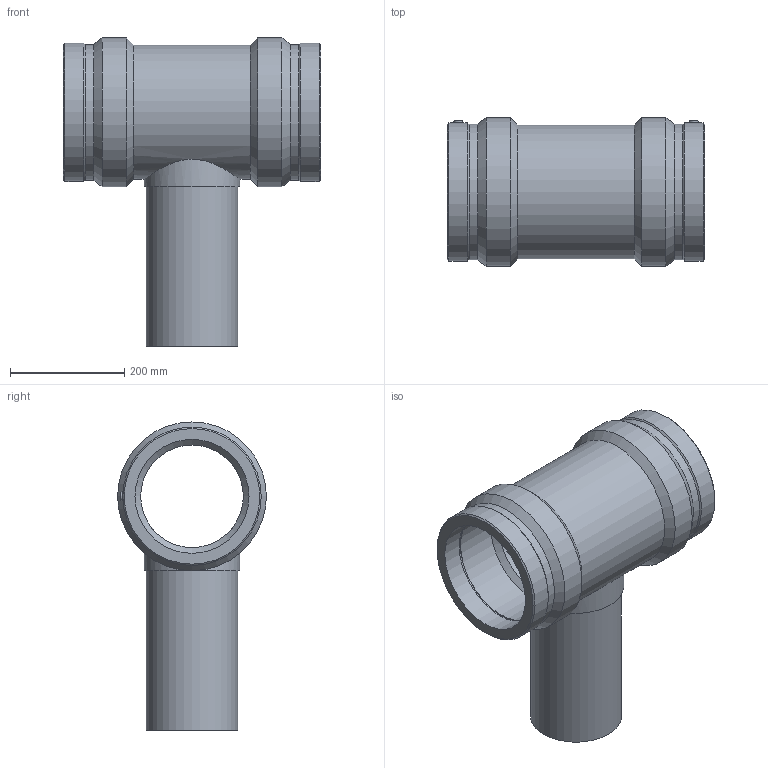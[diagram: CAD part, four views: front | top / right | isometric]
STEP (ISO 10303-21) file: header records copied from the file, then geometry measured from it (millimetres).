
FILE_DESCRIPTION(/* description */ ('PLASSON REDUCING TEE 200x160x200'),/* implementation_level */ '2;1');
FILE_NAME(/* name */ 'C:\Dropbox\KIMPROJECTS-Inventor 2019\99-16-3568-Processing\ElectroFusion Fittings\491404\491404200160.ipt.stp',/* time_stamp */ '2020-06-21T10:42:27+03:00',/* author */ ('KIM'),/* organization */ (''),/* preprocessor_version */ 'ST-DEVELOPER v17.2',/* originating_system */ 'Autodesk Inventor 2019',/* authorisation */ '');
FILE_SCHEMA (('AUTOMOTIVE_DESIGN { 1 0 10303 214 3 1 1 }'));
Length unit declared in the file: millimetre
Products named in the file (1): 491404200160
Bounding box: 451 x 261 x 540.5 mm (x, y, z)
Volume: 9936308.4 mm3; surface area: 926415.5 mm2
Topology: 1 solids, 1 shells, 45 faces, 112 edges, 79 vertices
Faces by surface type: cylinder 19, cone 14, plane 12
Full cylindrical faces by diameter (mm): 4 x2, 10 x2, 128 x1, 160 x1, 168 x1, 180 x1, 200 x4, 234.9 x1, 237.875 x2, 242.73 x2, 261 x2
Entity records: 1634 total; most frequent: CARTESIAN_POINT 437, DIRECTION 267, ORIENTED_EDGE 224, AXIS2_PLACEMENT_3D 117, EDGE_CURVE 112, VERTEX_POINT 79, CIRCLE 71, EDGE_LOOP 59
